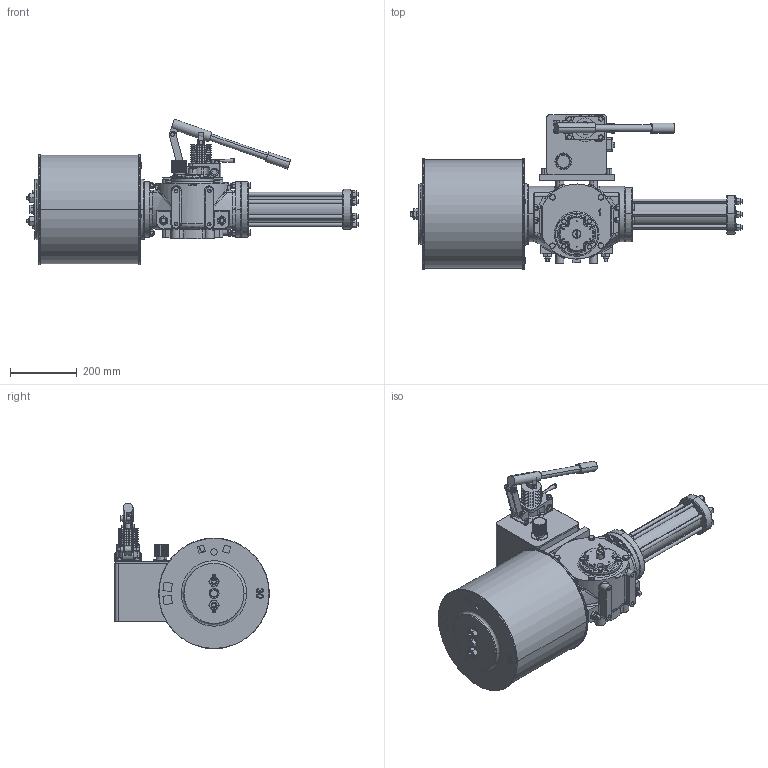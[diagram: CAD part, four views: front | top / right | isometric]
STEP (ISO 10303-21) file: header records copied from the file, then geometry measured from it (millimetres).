
FILE_DESCRIPTION (( 'STEP AP203' ), '1' );
FILE_NAME ('VTS1-300-MH.STEP', '2023-01-01T07:42:40', ( '' ), ( '' ), 'SwSTEP 2.0', 'SolidWorks 2020', '' );
FILE_SCHEMA (( 'CONFIG_CONTROL_DESIGN' ));
Length unit declared in the file: millimetre
Products named in the file (1): VTS1-300-MH
Bounding box: 995 x 463.9 x 436.27 mm (x, y, z)
Volume: 38141350.2 mm3; surface area: 1752472.8 mm2
Topology: 59 solids, 65 shells, 2553 faces, 6389 edges, 4048 vertices
Faces by surface type: plane 957, cylinder 807, cone 490, bspline 237, torus 34, sphere 28
Entity records: 102671 total; most frequent: CARTESIAN_POINT 44564, ORIENTED_EDGE 12622, DIRECTION 11192, EDGE_CURVE 6311, AXIS2_PLACEMENT_3D 4327, VERTEX_POINT 4048, EDGE_LOOP 2869, ADVANCED_FACE 2553
